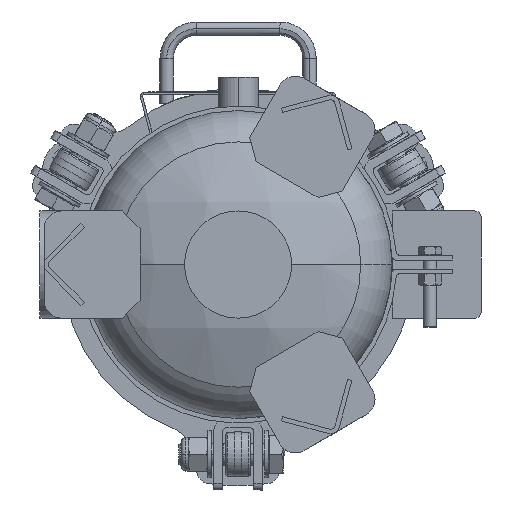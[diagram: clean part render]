
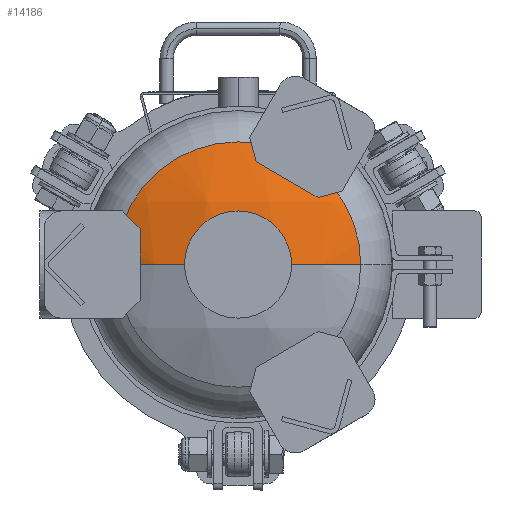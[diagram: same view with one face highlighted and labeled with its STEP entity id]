
A CAD part, front view. The second image highlights one B-rep face of the part: STEP entity #14186.
In plain terms, the highlighted spherical face has radius 195.112 mm.
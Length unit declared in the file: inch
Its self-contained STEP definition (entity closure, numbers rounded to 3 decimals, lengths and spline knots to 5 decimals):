
#197 = DIRECTION ( 'NONE',  ( -1., 0., 0. ) ) ;
#710 = DIRECTION ( 'NONE',  ( 1., 0., 0. ) ) ;
#1295 = EDGE_CURVE ( 'NONE', #13616, #23773, #4887, .T. ) ;
#1299 = AXIS2_PLACEMENT_3D ( 'NONE', #9755, #16025, #1419 ) ;
#1419 = DIRECTION ( 'NONE',  ( -1., 0., 0. ) ) ;
#1676 = AXIS2_PLACEMENT_3D ( 'NONE', #10579, #12489, #197 ) ;
#1839 = ORIENTED_EDGE ( 'NONE', *, *, #4546, .F. ) ;
#2623 = DIRECTION ( 'NONE',  ( 0., -1., 0. ) ) ;
#4313 = CARTESIAN_POINT ( 'NONE',  ( 0., -32.44342, 0. ) ) ;
#4546 = EDGE_CURVE ( 'NONE', #12189, #23773, #14757, .T. ) ;
#4887 = CIRCLE ( 'NONE', #14463, 7.68158 ) ;
#7046 = AXIS2_PLACEMENT_3D ( 'NONE', #24043, #2623, #710 ) ;
#9015 = CARTESIAN_POINT ( 'NONE',  ( 0., -40.125, 0. ) ) ;
#9347 = SPHERICAL_SURFACE ( 'NONE', #1299, 7.68158 ) ;
#9648 = ORIENTED_EDGE ( 'NONE', *, *, #1295, .T. ) ;
#9755 = CARTESIAN_POINT ( 'NONE',  ( 0., -32.44342, 0. ) ) ;
#10036 = CARTESIAN_POINT ( 'NONE',  ( 3.43561, -39.31388, 0. ) ) ;
#10579 = CARTESIAN_POINT ( 'NONE',  ( 0., -32.44342, 0. ) ) ;
#12189 = VERTEX_POINT ( 'NONE', #10036 ) ;
#12489 = DIRECTION ( 'NONE',  ( 0., 0., -1. ) ) ;
#12733 = CIRCLE ( 'NONE', #7046, 3.43561 ) ;
#12916 = DIRECTION ( 'NONE',  ( 0., 0., 1. ) ) ;
#13616 = VERTEX_POINT ( 'NONE', #13803 ) ;
#13803 = CARTESIAN_POINT ( 'NONE',  ( -3.43561, -39.31388, 0. ) ) ;
#14186 = ADVANCED_FACE ( 'NONE', ( #19716 ), #9347, .T. ) ;
#14463 = AXIS2_PLACEMENT_3D ( 'NONE', #4313, #12916, #21252 ) ;
#14757 = CIRCLE ( 'NONE', #1676, 7.68158 ) ;
#16025 = DIRECTION ( 'NONE',  ( 0., 0., -1. ) ) ;
#18484 = EDGE_CURVE ( 'NONE', #12189, #13616, #12733, .T. ) ;
#19716 = FACE_OUTER_BOUND ( 'NONE', #25024, .T. ) ;
#21252 = DIRECTION ( 'NONE',  ( 1., 0., 0. ) ) ;
#23312 = ORIENTED_EDGE ( 'NONE', *, *, #18484, .T. ) ;
#23773 = VERTEX_POINT ( 'NONE', #9015 ) ;
#24043 = CARTESIAN_POINT ( 'NONE',  ( 0., -39.31388, 0. ) ) ;
#25024 = EDGE_LOOP ( 'NONE', ( #1839, #23312, #9648 ) ) ;
